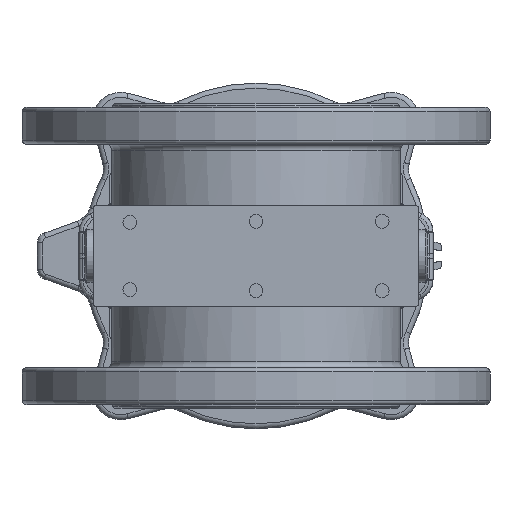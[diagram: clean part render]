
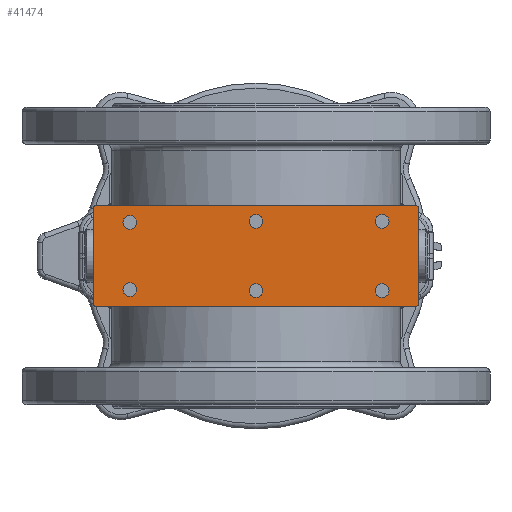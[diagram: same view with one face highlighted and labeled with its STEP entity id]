
A CAD part, front view. The second image highlights one B-rep face of the part: STEP entity #41474.
In plain terms, the highlighted planar face has unit normal (0, -1, 0).
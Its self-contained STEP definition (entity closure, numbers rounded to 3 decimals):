
#1465=FACE_BOUND('',#11793,.T.);
#1466=FACE_BOUND('',#11794,.T.);
#1467=FACE_BOUND('',#11795,.T.);
#1468=FACE_BOUND('',#11796,.T.);
#1469=FACE_BOUND('',#11797,.T.);
#1470=FACE_BOUND('',#11798,.T.);
#3105=PLANE('',#45150);
#4280=LINE('',#69835,#6250);
#4305=LINE('',#69907,#6275);
#4358=LINE('',#70321,#6328);
#4359=LINE('',#70326,#6329);
#6250=VECTOR('',#52762,1.);
#6275=VECTOR('',#52817,1.);
#6328=VECTOR('',#53256,1.);
#6329=VECTOR('',#53261,10.);
#9048=FACE_OUTER_BOUND('',#11792,.T.);
#11792=EDGE_LOOP('',(#31537,#31538,#31539,#31540,#31541,#31542,#31543,#31544));
#11793=EDGE_LOOP('',(#31545,#31546));
#11794=EDGE_LOOP('',(#31547,#31548));
#11795=EDGE_LOOP('',(#31549,#31550));
#11796=EDGE_LOOP('',(#31551,#31552));
#11797=EDGE_LOOP('',(#31553,#31554));
#11798=EDGE_LOOP('',(#31555,#31556));
#14716=CIRCLE('',#45140,2.);
#14718=CIRCLE('',#45143,2.);
#14721=CIRCLE('',#45151,2.);
#14722=CIRCLE('',#45152,2.);
#14723=CIRCLE('',#45153,3.375);
#14724=CIRCLE('',#45154,3.375);
#14725=CIRCLE('',#45155,3.375);
#14726=CIRCLE('',#45156,3.375);
#14727=CIRCLE('',#45157,3.375);
#14728=CIRCLE('',#45158,3.375);
#14729=CIRCLE('',#45159,3.375);
#14730=CIRCLE('',#45160,3.375);
#14731=CIRCLE('',#45161,3.375);
#14732=CIRCLE('',#45162,3.375);
#14733=CIRCLE('',#45163,3.375);
#14734=CIRCLE('',#45164,3.375);
#18102=VERTEX_POINT('',#69831);
#18104=VERTEX_POINT('',#69834);
#18132=VERTEX_POINT('',#69897);
#18136=VERTEX_POINT('',#69905);
#18274=VERTEX_POINT('',#70302);
#18276=VERTEX_POINT('',#70308);
#18279=VERTEX_POINT('',#70323);
#18280=VERTEX_POINT('',#70325);
#18281=VERTEX_POINT('',#70328);
#18282=VERTEX_POINT('',#70329);
#18283=VERTEX_POINT('',#70332);
#18284=VERTEX_POINT('',#70333);
#18285=VERTEX_POINT('',#70336);
#18286=VERTEX_POINT('',#70337);
#18287=VERTEX_POINT('',#70340);
#18288=VERTEX_POINT('',#70341);
#18289=VERTEX_POINT('',#70344);
#18290=VERTEX_POINT('',#70345);
#18291=VERTEX_POINT('',#70348);
#18292=VERTEX_POINT('',#70349);
#22870=EDGE_CURVE('',#18104,#18102,#4280,.T.);
#22907=EDGE_CURVE('',#18136,#18132,#4305,.T.);
#23082=EDGE_CURVE('',#18274,#18102,#14716,.T.);
#23085=EDGE_CURVE('',#18132,#18276,#14718,.T.);
#23092=EDGE_CURVE('',#18276,#18274,#4358,.T.);
#23093=EDGE_CURVE('',#18279,#18136,#14721,.T.);
#23094=EDGE_CURVE('',#18280,#18279,#4359,.T.);
#23095=EDGE_CURVE('',#18104,#18280,#14722,.T.);
#23096=EDGE_CURVE('',#18281,#18282,#14723,.T.);
#23097=EDGE_CURVE('',#18282,#18281,#14724,.T.);
#23098=EDGE_CURVE('',#18283,#18284,#14725,.T.);
#23099=EDGE_CURVE('',#18284,#18283,#14726,.T.);
#23100=EDGE_CURVE('',#18285,#18286,#14727,.T.);
#23101=EDGE_CURVE('',#18286,#18285,#14728,.T.);
#23102=EDGE_CURVE('',#18287,#18288,#14729,.T.);
#23103=EDGE_CURVE('',#18288,#18287,#14730,.T.);
#23104=EDGE_CURVE('',#18289,#18290,#14731,.T.);
#23105=EDGE_CURVE('',#18290,#18289,#14732,.T.);
#23106=EDGE_CURVE('',#18291,#18292,#14733,.T.);
#23107=EDGE_CURVE('',#18292,#18291,#14734,.T.);
#31537=ORIENTED_EDGE('',*,*,#23082,.F.);
#31538=ORIENTED_EDGE('',*,*,#23092,.F.);
#31539=ORIENTED_EDGE('',*,*,#23085,.F.);
#31540=ORIENTED_EDGE('',*,*,#22907,.F.);
#31541=ORIENTED_EDGE('',*,*,#23093,.F.);
#31542=ORIENTED_EDGE('',*,*,#23094,.F.);
#31543=ORIENTED_EDGE('',*,*,#23095,.F.);
#31544=ORIENTED_EDGE('',*,*,#22870,.T.);
#31545=ORIENTED_EDGE('',*,*,#23096,.F.);
#31546=ORIENTED_EDGE('',*,*,#23097,.F.);
#31547=ORIENTED_EDGE('',*,*,#23098,.T.);
#31548=ORIENTED_EDGE('',*,*,#23099,.T.);
#31549=ORIENTED_EDGE('',*,*,#23100,.F.);
#31550=ORIENTED_EDGE('',*,*,#23101,.F.);
#31551=ORIENTED_EDGE('',*,*,#23102,.T.);
#31552=ORIENTED_EDGE('',*,*,#23103,.T.);
#31553=ORIENTED_EDGE('',*,*,#23104,.F.);
#31554=ORIENTED_EDGE('',*,*,#23105,.F.);
#31555=ORIENTED_EDGE('',*,*,#23106,.T.);
#31556=ORIENTED_EDGE('',*,*,#23107,.T.);
#41474=ADVANCED_FACE('',(#9048,#1465,#1466,#1467,#1468,#1469,#1470),#3105,
 .F.);
#45140=AXIS2_PLACEMENT_3D('',#70303,#53232,#53233);
#45143=AXIS2_PLACEMENT_3D('',#70309,#53239,#53240);
#45150=AXIS2_PLACEMENT_3D('',#70322,#53257,#53258);
#45151=AXIS2_PLACEMENT_3D('',#70324,#53259,#53260);
#45152=AXIS2_PLACEMENT_3D('',#70327,#53262,#53263);
#45153=AXIS2_PLACEMENT_3D('',#70330,#53264,#53265);
#45154=AXIS2_PLACEMENT_3D('',#70331,#53266,#53267);
#45155=AXIS2_PLACEMENT_3D('',#70334,#53268,#53269);
#45156=AXIS2_PLACEMENT_3D('',#70335,#53270,#53271);
#45157=AXIS2_PLACEMENT_3D('',#70338,#53272,#53273);
#45158=AXIS2_PLACEMENT_3D('',#70339,#53274,#53275);
#45159=AXIS2_PLACEMENT_3D('',#70342,#53276,#53277);
#45160=AXIS2_PLACEMENT_3D('',#70343,#53278,#53279);
#45161=AXIS2_PLACEMENT_3D('',#70346,#53280,#53281);
#45162=AXIS2_PLACEMENT_3D('',#70347,#53282,#53283);
#45163=AXIS2_PLACEMENT_3D('',#70350,#53284,#53285);
#45164=AXIS2_PLACEMENT_3D('',#70351,#53286,#53287);
#52762=DIRECTION('',(0.,0.,1.));
#52817=DIRECTION('',(0.,0.,1.));
#53232=DIRECTION('center_axis',(0.,1.,0.));
#53233=DIRECTION('ref_axis',(0.707,0.,0.707));
#53239=DIRECTION('center_axis',(0.,1.,0.));
#53240=DIRECTION('ref_axis',(-0.707,0.,0.707));
#53256=DIRECTION('',(1.,0.,0.));
#53257=DIRECTION('center_axis',(0.,1.,0.));
#53258=DIRECTION('ref_axis',(0.,0.,-1.));
#53259=DIRECTION('center_axis',(0.,1.,0.));
#53260=DIRECTION('ref_axis',(-0.707,0.,-0.707));
#53261=DIRECTION('',(-1.,0.,0.));
#53262=DIRECTION('center_axis',(0.,1.,0.));
#53263=DIRECTION('ref_axis',(0.707,0.,-0.707));
#53264=DIRECTION('center_axis',(0.,-1.,0.));
#53265=DIRECTION('ref_axis',(0.,0.,
-1.));
#53266=DIRECTION('center_axis',(0.,-1.,0.));
#53267=DIRECTION('ref_axis',(0.,0.,
-1.));
#53268=DIRECTION('center_axis',(0.,1.,0.));
#53269=DIRECTION('ref_axis',(0.,0.,
1.));
#53270=DIRECTION('center_axis',(0.,1.,0.));
#53271=DIRECTION('ref_axis',(0.,0.,
1.));
#53272=DIRECTION('center_axis',(0.,-1.,0.));
#53273=DIRECTION('ref_axis',(0.,0.,
-1.));
#53274=DIRECTION('center_axis',(0.,-1.,0.));
#53275=DIRECTION('ref_axis',(0.,0.,
-1.));
#53276=DIRECTION('center_axis',(0.,1.,0.));
#53277=DIRECTION('ref_axis',(0.,0.,
1.));
#53278=DIRECTION('center_axis',(0.,1.,0.));
#53279=DIRECTION('ref_axis',(0.,0.,
1.));
#53280=DIRECTION('center_axis',(0.,-1.,0.));
#53281=DIRECTION('ref_axis',(0.,0.,
-1.));
#53282=DIRECTION('center_axis',(0.,-1.,0.));
#53283=DIRECTION('ref_axis',(0.,0.,
-1.));
#53284=DIRECTION('center_axis',(0.,1.,0.));
#53285=DIRECTION('ref_axis',(0.,0.,
1.));
#53286=DIRECTION('center_axis',(0.,1.,0.));
#53287=DIRECTION('ref_axis',(0.,0.,
1.));
#69831=CARTESIAN_POINT('',(80.,-103.,23.));
#69834=CARTESIAN_POINT('',(80.,-103.,-23.));
#69835=CARTESIAN_POINT('',(80.,-103.,-16.));
#69897=CARTESIAN_POINT('',(-80.,-103.,23.));
#69905=CARTESIAN_POINT('',(-80.,-103.,-23.));
#69907=CARTESIAN_POINT('',(-80.,-103.,-16.));
#70302=CARTESIAN_POINT('',(78.,-103.,25.));
#70303=CARTESIAN_POINT('Origin',(78.,-103.,23.));
#70308=CARTESIAN_POINT('',(-78.,-103.,25.));
#70309=CARTESIAN_POINT('Origin',(-78.,-103.,23.));
#70321=CARTESIAN_POINT('',(-80.,-103.,25.));
#70322=CARTESIAN_POINT('Origin',(71.,-103.,-15.5));
#70323=CARTESIAN_POINT('',(-78.,-103.,-25.));
#70324=CARTESIAN_POINT('Origin',(-78.,-103.,-23.));
#70325=CARTESIAN_POINT('',(78.,-103.,-25.));
#70326=CARTESIAN_POINT('',(75.5,-103.,-25.));
#70327=CARTESIAN_POINT('Origin',(78.,-103.,-23.));
#70328=CARTESIAN_POINT('',(0.,-103.,13.625));
#70329=CARTESIAN_POINT('',(0.,-103.,20.375));
#70330=CARTESIAN_POINT('Origin',(0.,-103.,
17.));
#70331=CARTESIAN_POINT('Origin',(0.,-103.,
17.));
#70332=CARTESIAN_POINT('',(0.,-103.,-13.625));
#70333=CARTESIAN_POINT('',(0.,-103.,-20.375));
#70334=CARTESIAN_POINT('Origin',(0.,-103.,
-17.));
#70335=CARTESIAN_POINT('Origin',(0.,-103.,
-17.));
#70336=CARTESIAN_POINT('',(62.,-103.,13.625));
#70337=CARTESIAN_POINT('',(62.,-103.,20.375));
#70338=CARTESIAN_POINT('Origin',(62.,-103.,17.));
#70339=CARTESIAN_POINT('Origin',(62.,-103.,17.));
#70340=CARTESIAN_POINT('',(62.,-103.,-13.625));
#70341=CARTESIAN_POINT('',(62.,-103.,-20.375));
#70342=CARTESIAN_POINT('Origin',(62.,-103.,-17.));
#70343=CARTESIAN_POINT('Origin',(62.,-103.,-17.));
#70344=CARTESIAN_POINT('',(-62.,-103.,13.125));
#70345=CARTESIAN_POINT('',(-62.,-103.,19.875));
#70346=CARTESIAN_POINT('Origin',(-62.,-103.,16.5));
#70347=CARTESIAN_POINT('Origin',(-62.,-103.,16.5));
#70348=CARTESIAN_POINT('',(-62.,-103.,-13.125));
#70349=CARTESIAN_POINT('',(-62.,-103.,-19.875));
#70350=CARTESIAN_POINT('Origin',(-62.,-103.,-16.5));
#70351=CARTESIAN_POINT('Origin',(-62.,-103.,-16.5));
